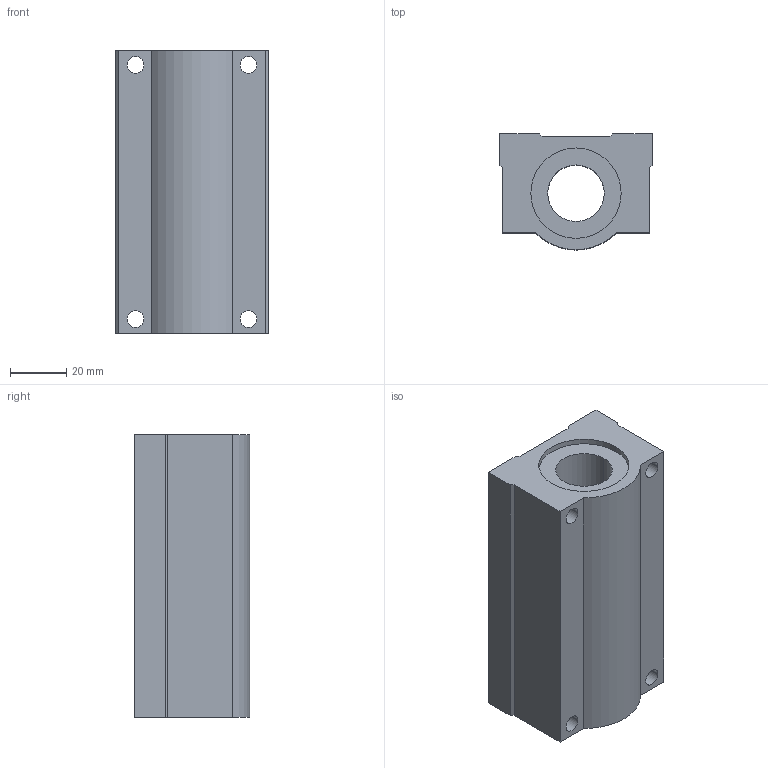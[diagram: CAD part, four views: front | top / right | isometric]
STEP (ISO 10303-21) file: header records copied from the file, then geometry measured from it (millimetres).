
FILE_DESCRIPTION((''),'2;1');
FILE_NAME('C:\Documents and Settings\ｿﾀﾀ蠑ｷ1\ｹﾙﾅﾁ ﾈｭｸ饅\ｺﾎﾇｰﾆﾄﾀﾏ\ﾁｦﾇｰ\SC__WUU\SC20WUU.stp','2005-06-22T14:55:32',('ｿﾀﾀ蠑ｷ1'),(''),'Autodesk Inventor 9','Autodesk Inventor 9','');
FILE_SCHEMA(('AUTOMOTIVE_DESIGN { 1 0 10303 214 1 1 1 1 }'));
Length unit declared in the file: millimetre
Products named in the file (1): SC__UU
Bounding box: 54 x 41 x 100 mm (x, y, z)
Volume: 156285.7 mm3; surface area: 30181.1 mm2
Topology: 1 solids, 1 shells, 32 faces, 84 edges, 56 vertices
Faces by surface type: plane 17, bspline 8, cylinder 7
Entity records: 1145 total; most frequent: CARTESIAN_POINT 309, ORIENTED_EDGE 168, DIRECTION 164, EDGE_CURVE 84, VERTEX_POINT 56, AXIS2_PLACEMENT_3D 55, VECTOR 54, LINE 54
